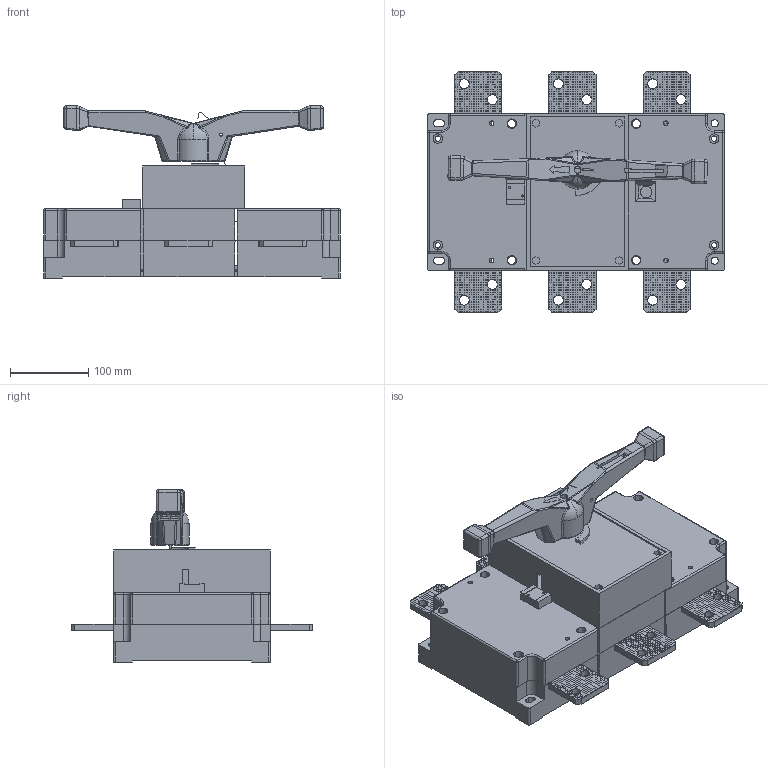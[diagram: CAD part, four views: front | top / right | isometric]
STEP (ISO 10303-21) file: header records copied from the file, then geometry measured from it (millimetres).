
FILE_DESCRIPTION (( 'STEP AP214' ), '1' );
FILE_NAME ('GL-1000 3P.STEP', '2026-01-26T08:44:23', ( '' ), ( '' ), 'SwSTEP 2.0', 'SolidWorks 2024', '' );
FILE_SCHEMA (( 'AUTOMOTIVE_DESIGN' ));
Length unit declared in the file: millimetre
Products named in the file (1): GL-1000 3P
Bounding box: 378 x 308.2 x 219.74 mm (x, y, z)
Surface area: 537042.9 mm2 (no closed solid volume)
Topology: 0 solids, 217 shells, 969 faces, 21004 edges, 20208 vertices
Faces by surface type: plane 700, cylinder 184, bspline 59, torus 18, sphere 8
Entity records: 221579 total; most frequent: CARTESIAN_POINT 113744, ORIENTED_EDGE 22815, EDGE_CURVE 20996, B_SPLINE_CURVE_WITH_KNOTS 20959, VERTEX_POINT 20208, EDGE_LOOP 5441, FACE_BOUND 4475, DIRECTION 1818
